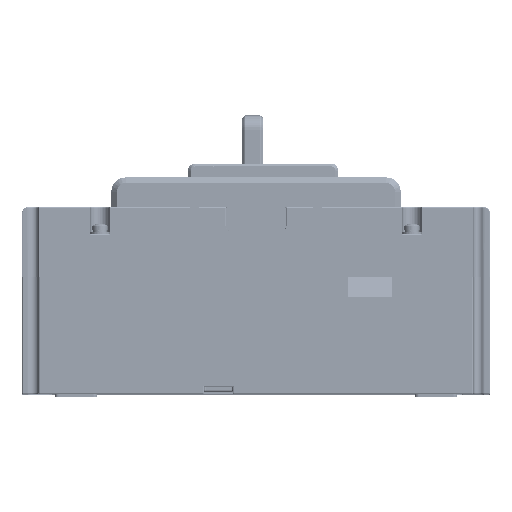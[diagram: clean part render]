
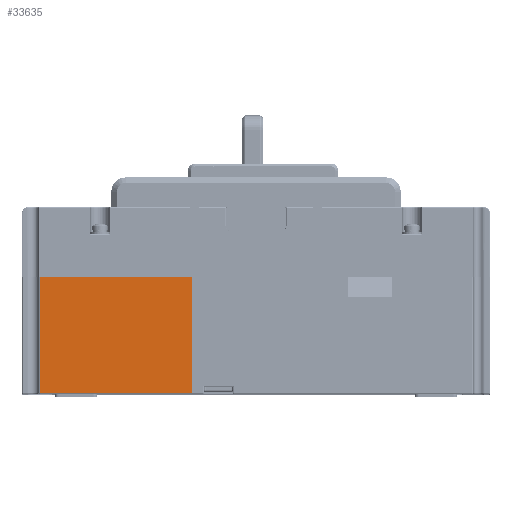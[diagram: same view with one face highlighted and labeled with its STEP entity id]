
A CAD part, top view. The second image highlights one B-rep face of the part: STEP entity #33635.
In plain terms, the highlighted planar face has unit normal (0, 0, 1).
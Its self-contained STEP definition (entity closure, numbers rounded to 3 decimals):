
#2498=DIRECTION('',(0.,1.,0.));
#2499=VECTOR('',#2498,41.);
#2500=CARTESIAN_POINT('',(-22.5,-32.3,88.5));
#2501=LINE('',#2500,#2499);
#2510=DIRECTION('',(1.,0.,0.));
#2511=VECTOR('',#2510,53.651);
#2512=CARTESIAN_POINT('',(-76.151,-32.3,88.5));
#2513=LINE('',#2512,#2511);
#2524=DIRECTION('',(0.,-1.,0.));
#2525=VECTOR('',#2524,41.);
#2526=CARTESIAN_POINT('',(-76.151,8.7,88.5));
#2527=LINE('',#2526,#2525);
#3268=DIRECTION('',(-1.,0.,0.));
#3269=VECTOR('',#3268,53.651);
#3270=CARTESIAN_POINT('',(-22.5,8.7,88.5));
#3271=LINE('',#3270,#3269);
#17393=CARTESIAN_POINT('',(-22.5,-32.3,88.5));
#17394=VERTEX_POINT('',#17393);
#17395=CARTESIAN_POINT('',(-22.5,8.7,88.5));
#17396=VERTEX_POINT('',#17395);
#17397=CARTESIAN_POINT('',(-76.151,-32.3,88.5));
#17398=VERTEX_POINT('',#17397);
#17403=CARTESIAN_POINT('',(-76.151,8.7,88.5));
#17404=VERTEX_POINT('',#17403);
#33624=CARTESIAN_POINT('',(0.,0.,88.5));
#33625=DIRECTION('',(0.,0.,1.));
#33626=DIRECTION('',(1.,0.,0.));
#33627=AXIS2_PLACEMENT_3D('',#33624,#33625,#33626);
#33628=PLANE('',#33627);
#33629=ORIENTED_EDGE('',*,*,#23714,.F.);
#33630=ORIENTED_EDGE('',*,*,#23742,.F.);
#33631=ORIENTED_EDGE('',*,*,#24831,.F.);
#33632=ORIENTED_EDGE('',*,*,#23698,.F.);
#33633=EDGE_LOOP('',(#33629,#33630,#33631,#33632));
#33634=FACE_OUTER_BOUND('',#33633,.F.);
#33635=ADVANCED_FACE('',(#33634),#33628,.T.);
#23698=EDGE_CURVE('',#17394,#17396,#2501,.T.);
#23714=EDGE_CURVE('',#17398,#17394,#2513,.T.);
#23742=EDGE_CURVE('',#17404,#17398,#2527,.T.);
#24831=EDGE_CURVE('',#17396,#17404,#3271,.T.);
